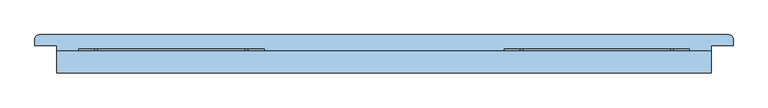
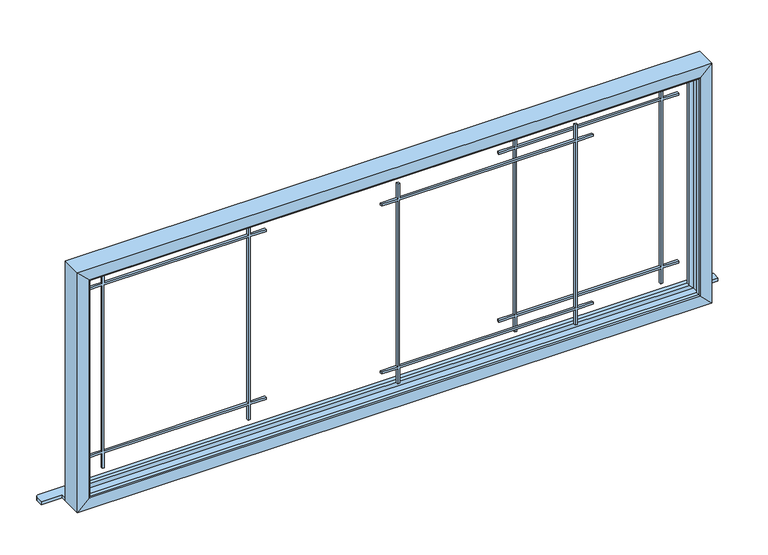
"""IFC4 building model written with IfcOpenShell, lengths in millimetres: window geometry, IT_Finestra scorrevole 3 ante con listelli tipo 2 : IT_Finestra scorrevole 3 ante con listelli tipo 2."""

from ifc_helpers import new_model, si_unit, point, frame, frame_2d, origin, place, context, project, spatial, polyline, circle_curve, ellipse_curve, trimmed, segment, composite_curve, outline, extrude, source, transform, mapped, element, save
from ifc_brep_helpers import plane_surface, cylinder_surface, advanced_brep


def window_8f0d36a4(model_context):
    return source(origin(), model_context, "Body", "SolidModel", [
        advanced_brep(
        [(-1488.8576085, 70.0, 839.9714235), (-1488.8576085, 130.0, 839.9714235), (-1488.8576085, 130.0, 1960.0285765), (-1488.8576085, 70.0, 1960.0285765), (-1468.8576085, 70.0, 859.9714235), (-1468.8576085, 70.0, 1940.0285765), (-1468.8576085, 55.0, 859.9714235), (-1468.8576085, 55.0, 1940.0285765), (-1473.8576085, 50.0, 854.9714235), (-1473.8576085, 50.0, 1945.0285765), (-1528.829032, 50.0, 800.0), (-1528.829032, 50.0, 2000.0), (-1528.829032, 150.0, 800.0), (-1528.829032, 150.0, 2000.0), (-1468.8576085, 150.0, 859.9714235), (-1468.8576085, 150.0, 1940.0285765), (-1468.8576085, 130.0, 859.9714235), (-1468.8576085, 130.0, 1940.0285765), (1431.1995445, 130.0, 1960.0285765), (1431.1995445, 70.0, 1960.0285765), (1411.1995445, 70.0, 1940.0285765), (1411.1995445, 55.0, 1940.0285765), (1416.1995445, 50.0, 1945.0285765), (1471.170968, 50.0, 2000.0), (1471.170968, 150.0, 2000.0), (1411.1995445, 150.0, 1940.0285765), (1411.1995445, 130.0, 1940.0285765), (1431.1995445, 130.0, 839.9714235), (1431.1995445, 70.0, 839.9714235), (1411.1995445, 70.0, 859.9714235), (1411.1995445, 55.0, 859.9714235), (1416.1995445, 50.0, 854.9714235), (1471.170968, 50.0, 800.0), (1471.170968, 150.0, 800.0), (1411.1995445, 150.0, 859.9714235), (1411.1995445, 130.0, 859.9714235)],
        [
            (0, 1),
            (1, 2),
            (2, 3),
            (3, 0),
            (4, 0),
            (3, 5),
            (5, 4),
            (6, 4),
            (5, 7),
            (7, 6),
            (8, 6, ellipse_curve(frame((-1473.8576085, 55.0, 854.9714235), z_axis=(-0.7071067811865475, 0.0, 0.7071067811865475), x_axis=(-0.7071067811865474, 0.0, -0.7071067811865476)), 7.0710678, 5.0)),
            (7, 9, ellipse_curve(frame((-1473.8576085, 55.0, 1945.0285765), z_axis=(-0.7071067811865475, 0.0, -0.7071067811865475), x_axis=(0.7071067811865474, 0.0, -0.7071067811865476)), 7.0710678, 5.0)),
            (9, 8),
            (10, 8),
            (9, 11),
            (11, 10),
            (12, 10),
            (11, 13),
            (13, 12),
            (14, 12),
            (13, 15),
            (15, 14),
            (16, 14),
            (15, 17),
            (17, 16),
            (1, 16),
            (17, 2),
            (2, 18),
            (18, 19),
            (19, 3),
            (19, 20),
            (20, 5),
            (20, 21),
            (21, 7),
            (21, 22, ellipse_curve(frame((1416.1995445, 55.0, 1945.0285765), z_axis=(-0.7071067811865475, 0.0, 0.7071067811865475), x_axis=(-0.7071067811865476, 0.0, -0.7071067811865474)), 7.0710678, 5.0)),
            (22, 9),
            (22, 23),
            (23, 11),
            (23, 24),
            (24, 13),
            (24, 25),
            (25, 15),
            (25, 26),
            (26, 17),
            (26, 18),
            (18, 27),
            (27, 28),
            (28, 19),
            (28, 29),
            (29, 20),
            (29, 30),
            (30, 21),
            (30, 31, ellipse_curve(frame((1416.1995445, 55.0, 854.9714235), z_axis=(0.7071067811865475, 0.0, 0.7071067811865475), x_axis=(-0.7071067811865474, 0.0, 0.7071067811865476)), 7.0710678, 5.0)),
            (31, 22),
            (31, 32),
            (32, 23),
            (32, 33),
            (33, 24),
            (33, 34),
            (34, 25),
            (34, 35),
            (35, 26),
            (35, 27),
            (27, 1),
            (0, 28),
            (4, 29),
            (6, 30),
            (8, 31),
            (10, 32),
            (12, 33),
            (14, 34),
            (16, 35),
        ],
        [
            plane_surface(frame((-1488.8576085, 130.0, 839.9714235), z_axis=(1.0, 0.0, 0.0), x_axis=(0.0, 0.0, 1.0))),
            plane_surface(frame((-1488.8576085, 70.0, 839.9714235), z_axis=(0.0, 1.0, 0.0), x_axis=(0.0, 0.0, 1.0))),
            plane_surface(frame((-1468.8576085, 70.0, 859.9714235), z_axis=(1.0, 0.0, 0.0), x_axis=(0.0, 0.0, 1.0))),
            cylinder_surface(frame((-1473.8576085, 55.0, 800.0), z_axis=(0.0, 0.0, -1.0), x_axis=(-1.0, 0.0, 0.0)), 5.0),
            plane_surface(frame((-1473.8576085, 50.0, 854.9714235), z_axis=(0.0, -1.0, 0.0), x_axis=(0.0, 0.0, 1.0))),
            plane_surface(frame((-1528.829032, 50.0, 800.0), z_axis=(-1.0, 0.0, 0.0), x_axis=(0.0, 0.0, 1.0))),
            plane_surface(frame((-1528.829032, 150.0, 800.0), z_axis=(0.0, 1.0, 0.0), x_axis=(0.0, 0.0, 1.0))),
            plane_surface(frame((-1468.8576085, 150.0, 859.9714235), z_axis=(1.0, 0.0, 0.0), x_axis=(0.0, 0.0, 1.0))),
            plane_surface(frame((-1468.8576085, 130.0, 859.9714235), z_axis=(0.0, -1.0, 0.0), x_axis=(0.0, 0.0, 1.0))),
            plane_surface(frame((-1488.8576085, 130.0, 1960.0285765), z_axis=(0.0, 0.0, -1.0), x_axis=(1.0, 0.0, 0.0))),
            plane_surface(frame((-1488.8576085, 70.0, 1960.0285765), z_axis=(0.0, 1.0, 0.0), x_axis=(1.0, 0.0, 0.0))),
            plane_surface(frame((-1468.8576085, 70.0, 1940.0285765), z_axis=(0.0, 0.0, -1.0), x_axis=(1.0, 0.0, 0.0))),
            cylinder_surface(frame((-1528.829032, 55.0, 1945.0285765), z_axis=(-1.0, 0.0, 0.0), x_axis=(0.0, 0.0, 1.0)), 5.0),
            plane_surface(frame((-1473.8576085, 50.0, 1945.0285765), z_axis=(0.0, -1.0, 0.0), x_axis=(1.0, 0.0, 0.0))),
            plane_surface(frame((-1528.829032, 50.0, 2000.0), z_axis=(0.0, 0.0, 1.0), x_axis=(1.0, 0.0, 0.0))),
            plane_surface(frame((-1528.829032, 150.0, 2000.0), z_axis=(0.0, 1.0, 0.0), x_axis=(1.0, 0.0, 0.0))),
            plane_surface(frame((-1468.8576085, 150.0, 1940.0285765), z_axis=(0.0, 0.0, -1.0), x_axis=(1.0, 0.0, 0.0))),
            plane_surface(frame((-1468.8576085, 130.0, 1940.0285765), z_axis=(0.0, -1.0, 0.0), x_axis=(1.0, 0.0, 0.0))),
            plane_surface(frame((1431.1995445, 130.0, 1960.0285765), z_axis=(-1.0, 0.0, 0.0), x_axis=(0.0, 0.0, -1.0))),
            plane_surface(frame((1431.1995445, 70.0, 1960.0285765), z_axis=(0.0, 1.0, 0.0), x_axis=(0.0, 0.0, -1.0))),
            plane_surface(frame((1411.1995445, 70.0, 1940.0285765), z_axis=(-1.0, 0.0, 0.0), x_axis=(0.0, 0.0, -1.0))),
            cylinder_surface(frame((1416.1995445, 55.0, 2000.0), z_axis=(0.0, 0.0, 1.0), x_axis=(1.0, 0.0, 0.0)), 5.0),
            plane_surface(frame((1416.1995445, 50.0, 1945.0285765), z_axis=(0.0, -1.0, 0.0), x_axis=(0.0, 0.0, -1.0))),
            plane_surface(frame((1471.170968, 50.0, 2000.0), z_axis=(1.0, 0.0, 0.0), x_axis=(0.0, 0.0, -1.0))),
            plane_surface(frame((1471.170968, 150.0, 2000.0), z_axis=(0.0, 1.0, 0.0), x_axis=(0.0, 0.0, -1.0))),
            plane_surface(frame((1411.1995445, 150.0, 1940.0285765), z_axis=(-1.0, 0.0, 0.0), x_axis=(0.0, 0.0, -1.0))),
            plane_surface(frame((1411.1995445, 130.0, 1940.0285765), z_axis=(0.0, -1.0, 0.0), x_axis=(0.0, 0.0, -1.0))),
            plane_surface(frame((1431.1995445, 130.0, 839.9714235), z_axis=(0.0, 0.0, 1.0), x_axis=(-1.0, 0.0, 0.0))),
            plane_surface(frame((1431.1995445, 70.0, 839.9714235), z_axis=(0.0, 1.0, 0.0), x_axis=(-1.0, 0.0, 0.0))),
            plane_surface(frame((1411.1995445, 70.0, 859.9714235), z_axis=(0.0, 0.0, 1.0), x_axis=(-1.0, 0.0, 0.0))),
            cylinder_surface(frame((1471.170968, 55.0, 854.9714235), z_axis=(1.0, 0.0, 0.0), x_axis=(0.0, 0.0, -1.0)), 5.0),
            plane_surface(frame((1416.1995445, 50.0, 854.9714235), z_axis=(0.0, -1.0, 0.0), x_axis=(-1.0, 0.0, 0.0))),
            plane_surface(frame((1471.170968, 50.0, 800.0), z_axis=(0.0, 0.0, -1.0), x_axis=(-1.0, 0.0, 0.0))),
            plane_surface(frame((1471.170968, 150.0, 800.0), z_axis=(0.0, 1.0, 0.0), x_axis=(-1.0, 0.0, 0.0))),
            plane_surface(frame((1411.1995445, 150.0, 859.9714235), z_axis=(0.0, 0.0, 1.0), x_axis=(-1.0, 0.0, 0.0))),
            plane_surface(frame((1411.1995445, 130.0, 859.9714235), z_axis=(0.0, -1.0, 0.0), x_axis=(-1.0, 0.0, 0.0))),
        ],
        [
            (0, [[1, 2, 3, 4]]),
            (1, [[5, -4, 6, 7]]),
            (2, [[8, -7, 9, 10]]),
            (3, [[11, -10, 12, 13]]),
            (4, [[14, -13, 15, 16]]),
            (5, [[17, -16, 18, 19]]),
            (6, [[20, -19, 21, 22]]),
            (7, [[23, -22, 24, 25]]),
            (8, [[26, -25, 27, -2]]),
            (9, [[-3, 28, 29, 30]]),
            (10, [[-6, -30, 31, 32]]),
            (11, [[-9, -32, 33, 34]]),
            (12, [[-12, -34, 35, 36]]),
            (13, [[-15, -36, 37, 38]]),
            (14, [[-18, -38, 39, 40]]),
            (15, [[-21, -40, 41, 42]]),
            (16, [[-24, -42, 43, 44]]),
            (17, [[-27, -44, 45, -28]]),
            (18, [[-29, 46, 47, 48]]),
            (19, [[-31, -48, 49, 50]]),
            (20, [[-33, -50, 51, 52]]),
            (21, [[-35, -52, 53, 54]]),
            (22, [[-37, -54, 55, 56]]),
            (23, [[-39, -56, 57, 58]]),
            (24, [[-41, -58, 59, 60]]),
            (25, [[-43, -60, 61, 62]]),
            (26, [[-45, -62, 63, -46]]),
            (27, [[-47, 64, -1, 65]]),
            (28, [[-49, -65, -5, 66]]),
            (29, [[-51, -66, -8, 67]]),
            (30, [[-53, -67, -11, 68]]),
            (31, [[-55, -68, -14, 69]]),
            (32, [[-57, -69, -17, 70]]),
            (33, [[-59, -70, -20, 71]]),
            (34, [[-61, -71, -23, 72]]),
            (35, [[-63, -72, -26, -64]]),
        ],
    ),
        extrude(outline(composite_curve([segment(polyline([(-1528.829032, 175.0), (-1628.829032, 175.0), (-1628.829032, 205.6)]), True, "CONTINUOUS"), segment(trimmed(circle_curve(frame_2d((-1609.429032, 205.6)), 19.4), [point((-1628.829032, 205.6))], [point((-1609.429032, 225.0))], False, "CARTESIAN"), True, "CONTINUOUS"), segment(polyline([(-1609.429032, 225.0), (1551.770968, 225.0)]), True, "CONTINUOUS"), segment(trimmed(circle_curve(frame_2d((1551.770968, 205.6)), 19.4), [point((1551.770968, 225.0))], [point((1571.170968, 205.6))], False, "CARTESIAN"), True, "CONTINUOUS"), segment(polyline([(1571.170968, 205.6), (1571.170968, 175.0), (1471.170968, 175.0), (1471.170968, 150.0), (-1528.829032, 150.0), (-1528.829032, 175.0)]), True, "CONTINUOUS")], self_intersect=False)), frame((0.0, 0.0, 800.0), z_axis=(0.0, 0.0, 1.0), x_axis=(1.0, 0.0, 0.0)), (0.0, 0.0, 1.0), 15.0),
        extrude(outline(polyline([(1825.0, -663.829032), (1825.0, -1343.8576085), (1900.0, -1343.8576085), (1900.0, -1353.8576085), (1825.0, -1353.8576085), (1825.0, -1428.8576085), (1815.0, -1428.8576085), (1815.0, -1353.8576085), (985.0, -1353.8576085), (985.0, -1428.8576085), (975.0, -1428.8576085), (975.0, -1353.8576085), (900.0, -1353.8576085), (900.0, -1343.8576085), (975.0, -1343.8576085), (975.0, -663.829032), (900.0, -663.829032), (900.0, -653.829032), (975.0, -653.829032), (975.0, -578.829032), (985.0, -578.829032), (985.0, -653.829032), (1815.0, -653.829032), (1815.0, -578.829032), (1825.0, -578.829032), (1825.0, -653.829032), (1900.0, -653.829032), (1900.0, -663.829032), (1825.0, -663.829032)]), holes=[polyline([(1815.0, -663.829032), (985.0, -663.829032), (985.0, -1343.8576085), (1815.0, -1343.8576085), (1815.0, -663.829032)])]), frame((0.0, 150.0, 0.0), z_axis=(0.0, 1.0, 0.0), x_axis=(0.0, 0.0, 1.0)), (0.0, 0.0, 1.0), 10.0),
        extrude(outline(polyline([(975.0, 606.170968), (975.0, 1286.170968), (900.0, 1286.170968), (900.0, 1296.170968), (975.0, 1296.170968), (975.0, 1371.1995445), (985.0, 1371.1995445), (985.0, 1296.170968), (1815.0, 1296.170968), (1815.0, 1371.1995445), (1825.0, 1371.1995445), (1825.0, 1296.170968), (1900.0, 1296.170968), (1900.0, 1286.170968), (1825.0, 1286.170968), (1825.0, 606.170968), (1900.0, 606.170968), (1900.0, 596.170968), (1825.0, 596.170968), (1825.0, 521.170968), (1815.0, 521.170968), (1815.0, 596.170968), (985.0, 596.170968), (985.0, 521.170968), (975.0, 521.170968), (975.0, 596.170968), (900.0, 596.170968), (900.0, 606.170968), (975.0, 606.170968)]), holes=[polyline([(1815.0, 606.170968), (1815.0, 1286.170968), (985.0, 1286.170968), (985.0, 606.170968), (1815.0, 606.170968)])]), frame((0.0, 150.0, 0.0), z_axis=(0.0, 1.0, 0.0), x_axis=(0.0, 0.0, 1.0)), (0.0, 0.0, 1.0), 10.0),
        extrude(outline(polyline([(975.0, 6.171168), (975.0, 836.170968), (900.0, 836.170968), (900.0, 846.170968), (975.0, 846.170968), (975.0, 921.170968), (985.0, 921.170968), (985.0, 846.170968), (1815.0, 846.170968), (1815.0, 921.170968), (1825.0, 921.170968), (1825.0, 846.170968), (1900.0, 846.170968), (1900.0, 836.170968), (1825.0, 836.170968), (1825.0, 6.171168), (1900.0, 6.171168), (1900.0, -3.828832), (1825.0, -3.828832), (1825.0, -78.828832), (1815.0, -78.828832), (1815.0, -3.828832), (985.0, -3.828832), (985.0, -78.828832), (975.0, -78.828832), (975.0, -3.828832), (900.0, -3.828832), (900.0, 6.171168), (975.0, 6.171168)]), holes=[polyline([(1815.0, 836.170968), (985.0, 836.170968), (985.0, 6.171168), (1815.0, 6.171168), (1815.0, 836.170968)])]), frame((0.0, 70.0, 0.0), z_axis=(0.0, 1.0, 0.0), x_axis=(0.0, 0.0, 1.0)), (0.0, 0.0, 1.0), 10.0),
    ])


if __name__ == "__main__":
    model = new_model("IFC4")
    model_context = context("Model", 3, world=origin())
    ifc_project = project(units=[si_unit("LENGTHUNIT", "METRE", prefix="MILLI")], contexts=[model_context])
    site = spatial("IfcSite", under=ifc_project)
    building = spatial("IfcBuilding", under=site)
    placement = place(None, origin())
    window_shape = window_8f0d36a4(model_context)
    element("IfcWindow", 1, ObjectType="IT_Finestra scorrevole 3 ante con listelli tipo 2 : IT_Finestra scorrevole 3 ante con listelli tipo 2", at=placement, inside=building, context=model_context, shape_type="MappedRepresentation", body=[
        mapped(window_shape, transform((0.0, 0.0, 0.0), x_axis=(1.0, 0.0, 0.0), y_axis=(0.0, 1.0, 0.0), z_axis=(0.0, 0.0, 1.0))),
    ])
    save(model, "model.ifc")
